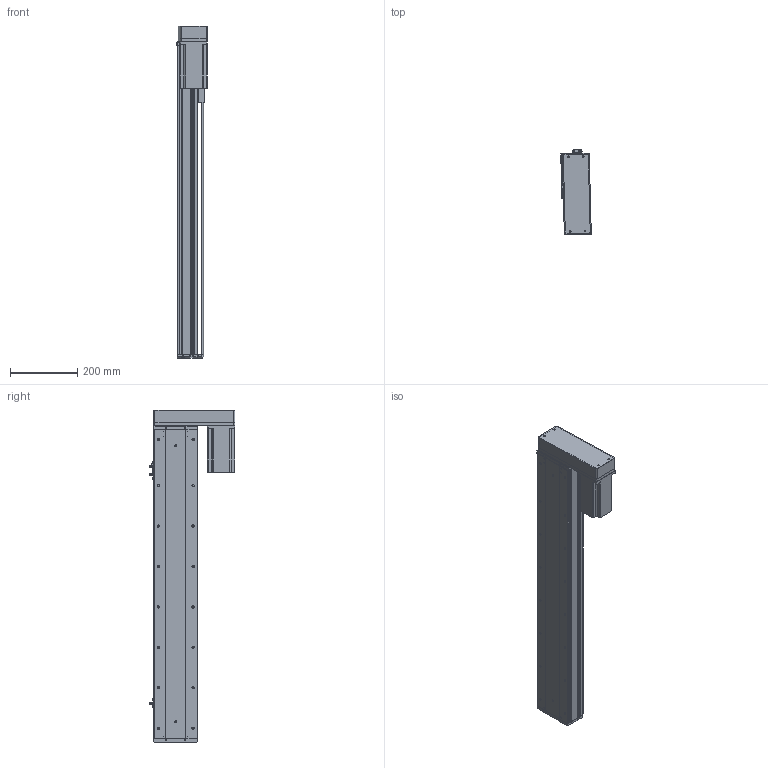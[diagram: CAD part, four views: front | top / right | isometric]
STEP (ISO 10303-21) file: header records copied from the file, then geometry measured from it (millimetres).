
FILE_DESCRIPTION (( 'STEP AP214' ), '1' );
FILE_NAME ('KSD130-P2010-S700-MR-CM.STEP', '2019-09-17T07:51:24', ( '微软用户' ), ( '微软中国' ), 'SwSTEP 2.0', 'SolidWorks 2014', '' );
FILE_SCHEMA (( 'AUTOMOTIVE_DESIGN' ));
Length unit declared in the file: millimetre
Products named in the file (11): 130宽模组保护罩左右折; 台达ECMA－C20807AS伺服电机; 130宽模组马达安装板连板左右折丝杆; U倰嫖萇EEㄜSX672; 覜茼え100遵圉猾敕; 130宽盖板半封闭丝杠-700行程; 130宽滚珠丝杆安装板半封闭-20丝杠; 130宽马达安装板半封闭; 130遵傷裔圉猾敕; 130宽底板半封闭丝杠-700行程; KSD130-P2010-S700-MR-CM
Assembly tree (12 placements, depth 2):
  KSD130-P2010-S700-MR-CM
    130宽底板半封闭丝杠-700行程
    130遵傷裔圉猾敕
    130宽马达安装板半封闭
    130宽滚珠丝杆安装板半封闭-20丝杠
    130宽盖板半封闭丝杠-700行程
    覜茼え100遵圉猾敕
    U倰嫖萇EEㄜSX672  x3
    130宽模组马达安装板连板左右折丝杆
    台达ECMA－C20807AS伺服电机
    130宽模组保护罩左右折
Bounding box: 90.58 x 253.94 x 985.5 mm (x, y, z)
Volume: 3971804 mm3; surface area: 1079738.3 mm2
Topology: 13 solids, 13 shells, 1334 faces, 3763 edges, 2401 vertices
Faces by surface type: cylinder 633, plane 558, cone 143
Entity records: 43535 total; most frequent: CARTESIAN_POINT 8174, DIRECTION 6413, ORIENTED_EDGE 6206, EDGE_CURVE 3103, AXIS2_PLACEMENT_3D 2320, VERTEX_POINT 2025, LINE 1773, VECTOR 1773
